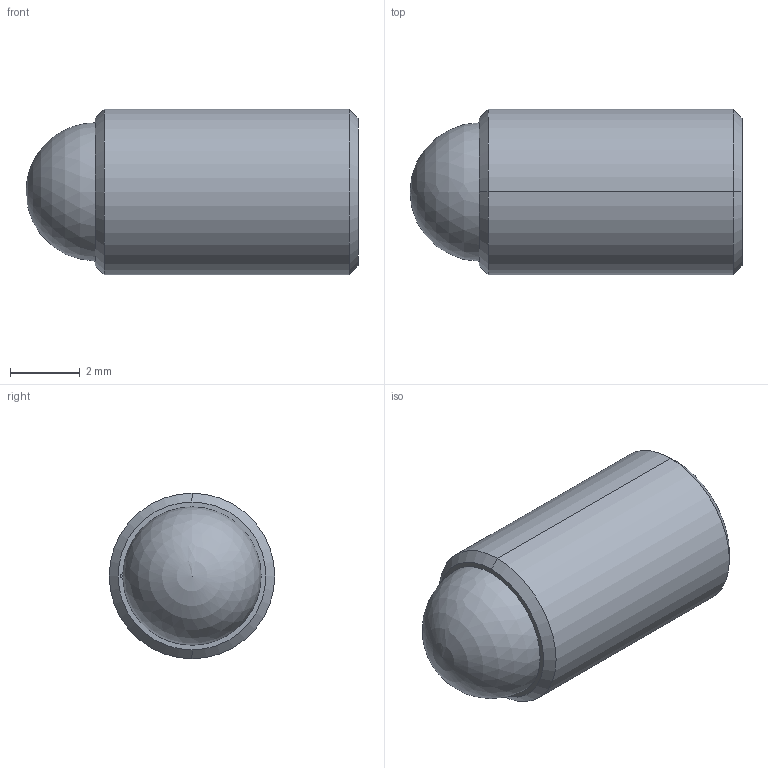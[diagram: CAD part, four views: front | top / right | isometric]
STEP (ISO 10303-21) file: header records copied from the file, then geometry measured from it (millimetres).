
FILE_DESCRIPTION (( 'STEP AP214' ), '1' );
FILE_NAME ('TS187-100-375-AA-HV.STEP', '2013-05-09T12:25:21', ( 'workpc' ), ( 'Microsoft' ), 'SwSTEP 2.0', 'SolidWorks 2013', '' );
FILE_SCHEMA (( 'AUTOMOTIVE_DESIGN' ));
Length unit declared in the file: inch
Products named in the file (1): TS187-100-375-AA-HV
Bounding box: 9.53 x 4.75 x 4.75 mm (x, y, z)
Volume: 129.7 mm3; surface area: 236.6 mm2
Topology: 2 solids, 2 shells, 28 faces, 66 edges, 42 vertices
Faces by surface type: cylinder 11, plane 11, cone 4, sphere 2
Entity records: 851 total; most frequent: DIRECTION 144, CARTESIAN_POINT 135, ORIENTED_EDGE 122, EDGE_CURVE 61, AXIS2_PLACEMENT_3D 56, VERTEX_POINT 39, VECTOR 32, LINE 32
